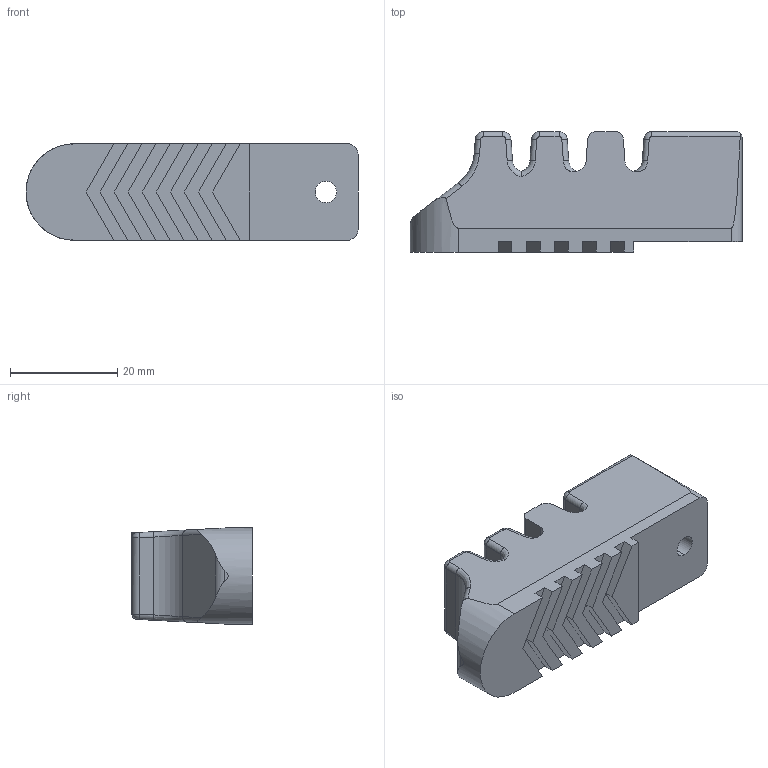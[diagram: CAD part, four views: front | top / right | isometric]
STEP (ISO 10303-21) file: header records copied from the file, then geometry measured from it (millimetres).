
FILE_DESCRIPTION (( 'STEP AP214' ), '1' );
FILE_NAME ('B4.STEP', '2019-12-04T07:21:12', ( '微软用户' ), ( '微软中国' ), 'SwSTEP 2.0', 'SolidWorks 2016', '' );
FILE_SCHEMA (( 'AUTOMOTIVE_DESIGN' ));
Length unit declared in the file: millimetre
Products named in the file (1): B4
Bounding box: 62.03 x 22.5 x 18 mm (x, y, z)
Volume: 18696.7 mm3; surface area: 6005.9 mm2
Topology: 1 solids, 1 shells, 117 faces, 303 edges, 188 vertices
Faces by surface type: plane 51, cylinder 42, bspline 24
Entity records: 6215 total; most frequent: CARTESIAN_POINT 2318, ORIENTED_EDGE 606, DIRECTION 457, EDGE_CURVE 303, VERTEX_POINT 188, LINE 183, VECTOR 183, AXIS2_PLACEMENT_3D 137
